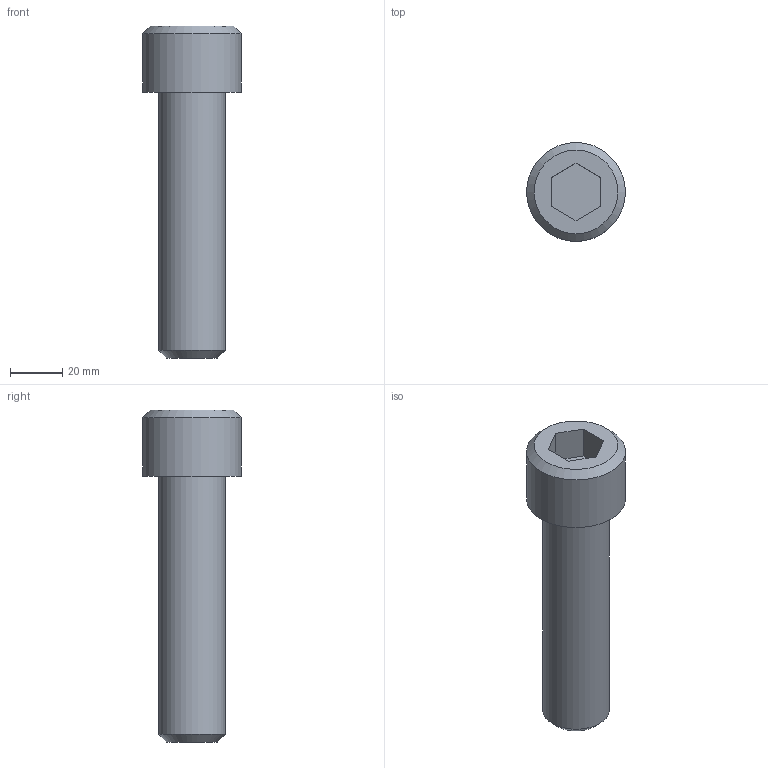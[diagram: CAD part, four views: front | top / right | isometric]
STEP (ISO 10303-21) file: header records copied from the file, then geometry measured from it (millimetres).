
FILE_DESCRIPTION((''),'2;1');
FILE_NAME('C:\Users\Stan\Desktop\import\SHCS 1-8 UNCx4.ipt.step','2011-08-18T17:44:19',(''),(''),'Autodesk Inventor 2012','Autodesk Inventor 2012','');
FILE_SCHEMA(('AUTOMOTIVE_DESIGN { 1 0 10303 214 1 1 1 1 }'));
Length unit declared in the file: inch
Products named in the file (1): SHCS 1-8 UNCx4
Bounding box: 37.8 x 37.8 x 126.85 mm (x, y, z)
Volume: 75074.4 mm3; surface area: 13820.1 mm2
Topology: 1 solids, 1 shells, 14 faces, 28 edges, 18 vertices
Faces by surface type: plane 10, cone 2, cylinder 2
Full cylindrical faces by diameter (mm): 25.4 x1, 37.795 x1
Entity records: 391 total; most frequent: DIRECTION 60, CARTESIAN_POINT 57, ORIENTED_EDGE 48, EDGE_CURVE 24, AXIS2_PLACEMENT_3D 21, EDGE_LOOP 20, VERTEX_POINT 18, VECTOR 18
